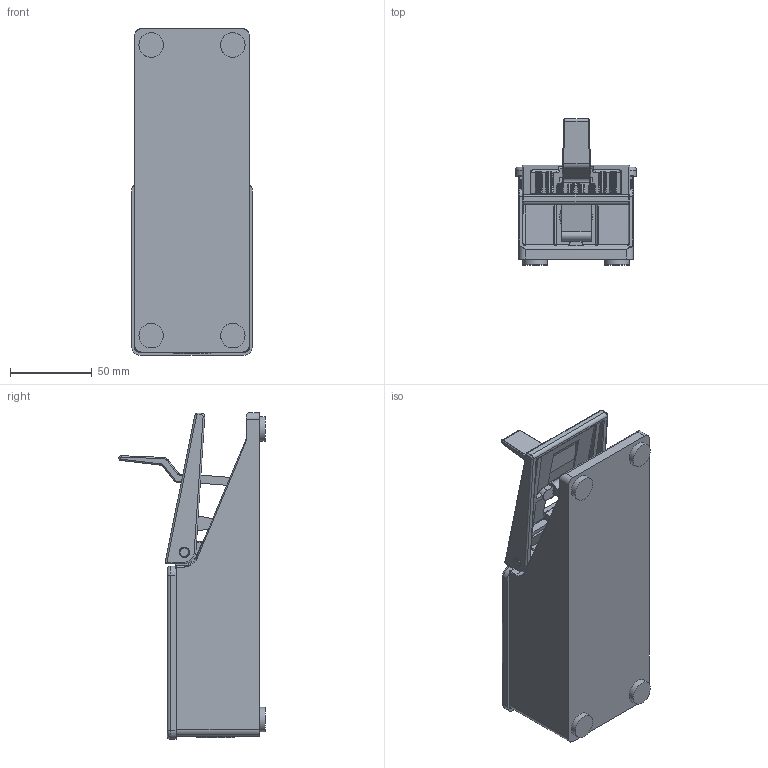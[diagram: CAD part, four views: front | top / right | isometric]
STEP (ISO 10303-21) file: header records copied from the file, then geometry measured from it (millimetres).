
FILE_DESCRIPTION(('Interruptor de Pedal Industrial'),'2;1');
FILE_NAME('C:\Users\valdivina.KP\Desktop\kp_sf_sf$_step.stp','2015-11-05T08:08:42',('DIE'),('KAP Componentes Eletricos Ltda.'),'Autodesk Inventor 2011','Autodesk Inventor 2011','Direitos reservados. Proibido reproducao, cedencia ou revelacao de conteudo a terceiros, salvo com autorizacao.');
FILE_SCHEMA(('AUTOMOTIVE_DESIGN { 1 0 10303 214 1 1 1 1 }'));
Length unit declared in the file: millimetre
Products named in the file (1): kp_sf_sf$_step
Bounding box: 74.04 x 89.61 x 200.02 mm (x, y, z)
Volume: 553583.3 mm3; surface area: 82669.9 mm2
Topology: 1 solids, 3 shells, 1758 faces, 4085 edges, 2367 vertices
Faces by surface type: cylinder 732, plane 618, sphere 274, bspline 60, cone 46, torus 28
Full cylindrical faces by diameter (mm): 3.575 x2, 6.35 x2, 6.4 x4, 7.4 x2, 8.4 x1, 9.525 x1, 12 x1, 15 x4, 18.5 x1, 20 x1, 23 x1
Entity records: 53990 total; most frequent: CARTESIAN_POINT 11995, DIRECTION 8947, ORIENTED_EDGE 8036, EDGE_CURVE 4018, AXIS2_PLACEMENT_3D 3375, VERTEX_POINT 2341, VECTOR 2197, LINE 2197
